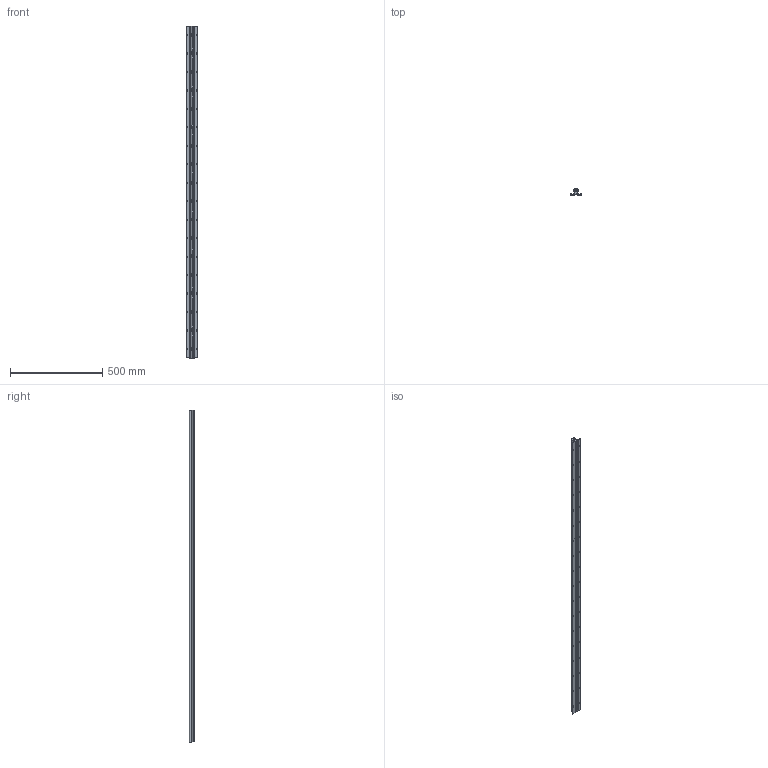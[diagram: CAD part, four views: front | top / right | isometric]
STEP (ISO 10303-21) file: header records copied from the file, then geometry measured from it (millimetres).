
FILE_DESCRIPTION (( 'STEP AP203' ), '1' );
FILE_NAME ('LF 2_-_LF 2 1798 mm lang.step', '2005-06-03T06:15:50', ( ' ' ), ( ' ' ), 'SwSTEP 2.0', 'SolidWorks 2004231', '' );
FILE_SCHEMA (( 'CONFIG_CONTROL_DESIGN' ));
Length unit declared in the file: millimetre
Products named in the file (1): LF 2_-_LF 2  1798 mm lang
Bounding box: 62 x 31 x 1798 mm (x, y, z)
Volume: 1251289.5 mm3; surface area: 406246.1 mm2
Topology: 1 solids, 1 shells, 941 faces, 2458 edges, 1482 vertices
Faces by surface type: cylinder 478, plane 319, cone 72, torus 72
Entity records: 29033 total; most frequent: CARTESIAN_POINT 7690, ORIENTED_EDGE 4772, DIRECTION 4078, EDGE_CURVE 2386, VERTEX_POINT 1482, AXIS2_PLACEMENT_3D 1470, VECTOR 1138, LINE 1138
